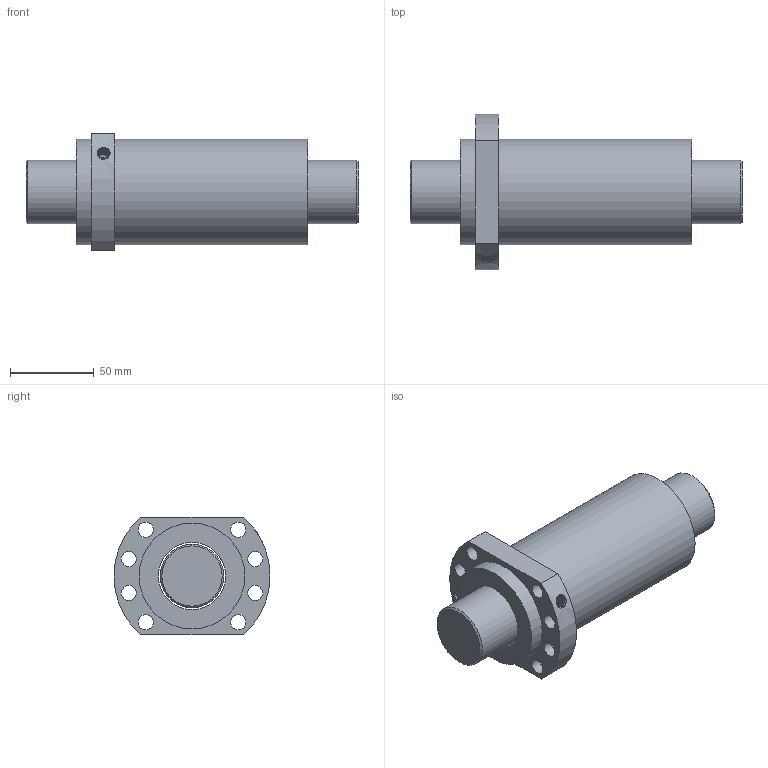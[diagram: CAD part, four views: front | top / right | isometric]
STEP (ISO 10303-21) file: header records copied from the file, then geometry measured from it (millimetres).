
FILE_DESCRIPTION(/* description */ ('Unknown','CAx-IF Rec.Pracs.---Representation and Presentation of Product Manufacturing Information (PMI)---4.0---2014-10-13','CAx-IF Rec.Pracs.---3D Tessellated Geometry---0.4---2014-09-14','2;1'),/* implementation_level */ '2;1');
FILE_NAME(/* name */ 'SFH4040-2.8',/* time_stamp */ '2020-12-08T11:32:36+08:00',/* author */ ('Unknown'),/* organization */ ('Unknown'),/* preprocessor_version */ 'ST-DEVELOPER v16.7',/* originating_system */ 'Solid Edge',/* authorisation */ 'Unknown');
FILE_SCHEMA (('AP242_MANAGED_MODEL_BASED_3D_ENGINEERING_MIM_LF { 1 0 10303 442 1 1 4 }'));
Length unit declared in the file: millimetre
Products named in the file (1): SFH4040-2.8
Bounding box: 198 x 93 x 70 mm (x, y, z)
Volume: 511428.1 mm3; surface area: 83364.2 mm2
Topology: 2 solids, 2 shells, 32 faces, 75 edges, 49 vertices
Faces by surface type: cylinder 18, plane 9, cone 3, bspline 2
Full cylindrical faces by diameter (mm): 4 x1, 6.917 x1, 9 x8, 38 x1, 40 x1, 63 x2
Entity records: 2736 total; most frequent: CARTESIAN_POINT 1976, DIRECTION 146, ORIENTED_EDGE 108, EDGE_LOOP 71, FACE_BOUND 71, AXIS2_PLACEMENT_3D 70, EDGE_CURVE 54, VERTEX_POINT 45
